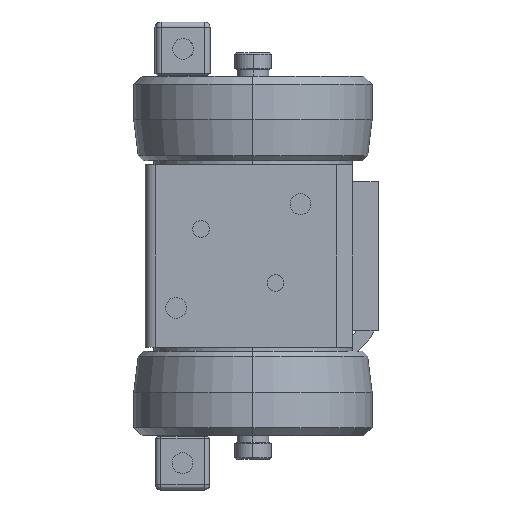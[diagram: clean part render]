
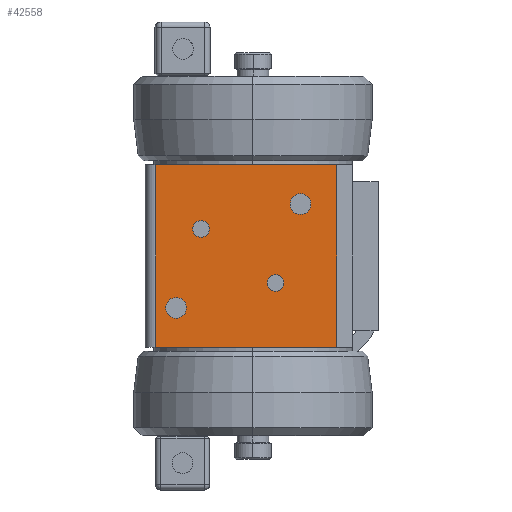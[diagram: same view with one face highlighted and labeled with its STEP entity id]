
A CAD part, left-side view. The second image highlights one B-rep face of the part: STEP entity #42558.
In plain terms, the highlighted planar face has unit normal (-1, 0, 0).
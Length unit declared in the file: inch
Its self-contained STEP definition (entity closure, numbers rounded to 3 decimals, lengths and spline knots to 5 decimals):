
#2936 = AXIS2_PLACEMENT_3D ( 'NONE', #29976, #29975, #29974 ) ;
#2942 = AXIS2_PLACEMENT_3D ( 'NONE', #29755, #29898, #29858 ) ;
#2944 = AXIS2_PLACEMENT_3D ( 'NONE', #29757, #29868, #29856 ) ;
#2945 = AXIS2_PLACEMENT_3D ( 'NONE', #29896, #29861, #29759 ) ;
#4570 = AXIS2_PLACEMENT_3D ( 'NONE', #46967, #46968, #46969 ) ;
#4575 = AXIS2_PLACEMENT_3D ( 'NONE', #32841, #32842, #32843 ) ;
#4583 = AXIS2_PLACEMENT_3D ( 'NONE', #32913, #32914, #32915 ) ;
#4593 = AXIS2_PLACEMENT_3D ( 'NONE', #33026, #33027, #33028 ) ;
#4939 = EDGE_CURVE ( 'NONE', #27279, #27277, #10577, .T. ) ;
#4989 = EDGE_CURVE ( 'NONE', #17498, #17496, #10662, .T. ) ;
#4990 = EDGE_CURVE ( 'NONE', #27701, #27533, #10656, .T. ) ;
#4991 = EDGE_CURVE ( 'NONE', #17502, #17501, #10664, .T. ) ;
#4992 = EDGE_CURVE ( 'NONE', #17500, #27281, #10665, .T. ) ;
#5017 = EDGE_CURVE ( 'NONE', #27364, #27701, #21462, .T. ) ;
#5024 = EDGE_CURVE ( 'NONE', #27533, #27370, #21485, .T. ) ;
#5025 = EDGE_CURVE ( 'NONE', #27364, #27370, #21487, .T. ) ;
#8243 = ORIENTED_EDGE ( 'NONE', *, *, #4991, .F. ) ;
#8244 = ORIENTED_EDGE ( 'NONE', *, *, #33452, .F. ) ;
#8245 = ORIENTED_EDGE ( 'NONE', *, *, #4992, .F. ) ;
#8246 = ORIENTED_EDGE ( 'NONE', *, *, #33469, .F. ) ;
#8247 = ORIENTED_EDGE ( 'NONE', *, *, #4939, .F. ) ;
#8253 = ORIENTED_EDGE ( 'NONE', *, *, #33492, .F. ) ;
#8257 = ORIENTED_EDGE ( 'NONE', *, *, #33529, .F. ) ;
#8258 = ORIENTED_EDGE ( 'NONE', *, *, #4989, .F. ) ;
#8260 = ORIENTED_EDGE ( 'NONE', *, *, #5017, .T. ) ;
#8264 = ORIENTED_EDGE ( 'NONE', *, *, #5024, .T. ) ;
#8265 = ORIENTED_EDGE ( 'NONE', *, *, #5025, .F. ) ;
#8269 = ORIENTED_EDGE ( 'NONE', *, *, #4990, .T. ) ;
#10577 = CIRCLE ( 'NONE', #2936, 0.2 ) ;
#10656 = LINE ( 'NONE', #29852, #10666 ) ;
#10662 = CIRCLE ( 'NONE', #2942, 0.25 ) ;
#10664 = CIRCLE ( 'NONE', #2944, 0.25 ) ;
#10665 = CIRCLE ( 'NONE', #2945, 0.2 ) ;
#10666 = VECTOR ( 'NONE', #29747, 39.37008 ) ;
#15120 = FACE_BOUND ( 'NONE', #39778, .T. ) ;
#15128 = FACE_OUTER_BOUND ( 'NONE', #16344, .T. ) ;
#15132 = FACE_BOUND ( 'NONE', #39800, .T. ) ;
#15134 = FACE_BOUND ( 'NONE', #39798, .T. ) ;
#15135 = FACE_BOUND ( 'NONE', #39802, .T. ) ;
#16344 = EDGE_LOOP ( 'NONE', ( #8269, #8264, #8265, #8260 ) ) ;
#17496 = VERTEX_POINT ( 'NONE', #27115 ) ;
#17498 = VERTEX_POINT ( 'NONE', #27117 ) ;
#17500 = VERTEX_POINT ( 'NONE', #27119 ) ;
#17501 = VERTEX_POINT ( 'NONE', #27120 ) ;
#17502 = VERTEX_POINT ( 'NONE', #27121 ) ;
#20557 = CIRCLE ( 'NONE', #4570, 0.2 ) ;
#20587 = CIRCLE ( 'NONE', #4575, 0.2 ) ;
#21462 = LINE ( 'NONE', #29884, #21466 ) ;
#21466 = VECTOR ( 'NONE', #29586, 39.37008 ) ;
#21485 = LINE ( 'NONE', #29681, #21488 ) ;
#21487 = LINE ( 'NONE', #29602, #21493 ) ;
#21488 = VECTOR ( 'NONE', #29688, 39.37008 ) ;
#21493 = VECTOR ( 'NONE', #29603, 39.37008 ) ;
#27115 = CARTESIAN_POINT ( 'NONE',  ( -2.398, -0.898, 1.25 ) ) ;
#27117 = CARTESIAN_POINT ( 'NONE',  ( -2.398, -1.398, 1.25 ) ) ;
#27119 = CARTESIAN_POINT ( 'NONE',  ( -2.398, 1.0499, 0.65464 ) ) ;
#27120 = CARTESIAN_POINT ( 'NONE',  ( -2.398, 2.102, -1.25 ) ) ;
#27121 = CARTESIAN_POINT ( 'NONE',  ( -2.398, 1.602, -1.25 ) ) ;
#27277 = VERTEX_POINT ( 'NONE', #36346 ) ;
#27279 = VERTEX_POINT ( 'NONE', #36347 ) ;
#27281 = VERTEX_POINT ( 'NONE', #36349 ) ;
#27364 = VERTEX_POINT ( 'NONE', #36432 ) ;
#27370 = VERTEX_POINT ( 'NONE', #36438 ) ;
#27533 = VERTEX_POINT ( 'NONE', #36601 ) ;
#27701 = VERTEX_POINT ( 'NONE', #46485 ) ;
#29586 = DIRECTION ( 'NONE',  ( 0., 0., -1. ) ) ;
#29602 = CARTESIAN_POINT ( 'NONE',  ( -2.398, 2.598, 2.202 ) ) ;
#29603 = DIRECTION ( 'NONE',  ( 0., -1., 0. ) ) ;
#29681 = CARTESIAN_POINT ( 'NONE',  ( -2.398, -2.023, -3.387 ) ) ;
#29688 = DIRECTION ( 'NONE',  ( 0., 0., 1. ) ) ;
#29747 = DIRECTION ( 'NONE',  ( 0., -1., 0. ) ) ;
#29755 = CARTESIAN_POINT ( 'NONE',  ( -2.398, -1.148, 1.25 ) ) ;
#29757 = CARTESIAN_POINT ( 'NONE',  ( -2.398, 1.852, -1.25 ) ) ;
#29759 = DIRECTION ( 'NONE',  ( 0., -1., 0. ) ) ;
#29852 = CARTESIAN_POINT ( 'NONE',  ( -2.398, 2.598, -2.202 ) ) ;
#29856 = DIRECTION ( 'NONE',  ( 0., -1., 0. ) ) ;
#29858 = DIRECTION ( 'NONE',  ( 0., -1., 0. ) ) ;
#29861 = DIRECTION ( 'NONE',  ( -1., 0., 0. ) ) ;
#29868 = DIRECTION ( 'NONE',  ( -1., 0., 0. ) ) ;
#29884 = CARTESIAN_POINT ( 'NONE',  ( -2.398, 2.348, -2.202 ) ) ;
#29896 = CARTESIAN_POINT ( 'NONE',  ( -2.398, 1.2499, 0.65464 ) ) ;
#29898 = DIRECTION ( 'NONE',  ( -1., 0., 0. ) ) ;
#29974 = DIRECTION ( 'NONE',  ( 0., -1., 0. ) ) ;
#29975 = DIRECTION ( 'NONE',  ( -1., 0., 0. ) ) ;
#29976 = CARTESIAN_POINT ( 'NONE',  ( -2.398, -0.5459, -0.65464 ) ) ;
#31978 = DIRECTION ( 'NONE',  ( 1., 0., 0. ) ) ;
#31981 = PLANE ( 'NONE',  #37329 ) ;
#31982 = CARTESIAN_POINT ( 'NONE',  ( -2.398, 2.598, 2.202 ) ) ;
#31984 = DIRECTION ( 'NONE',  ( 0., 1., 0. ) ) ;
#32841 = CARTESIAN_POINT ( 'NONE',  ( -2.398, -0.5459, -0.65464 ) ) ;
#32842 = DIRECTION ( 'NONE',  ( -1., 0., 0. ) ) ;
#32843 = DIRECTION ( 'NONE',  ( 0., -1., 0. ) ) ;
#32913 = CARTESIAN_POINT ( 'NONE',  ( -2.398, -1.148, 1.25 ) ) ;
#32914 = DIRECTION ( 'NONE',  ( -1., 0., 0. ) ) ;
#32915 = DIRECTION ( 'NONE',  ( 0., -1., 0. ) ) ;
#33026 = CARTESIAN_POINT ( 'NONE',  ( -2.398, 1.852, -1.25 ) ) ;
#33027 = DIRECTION ( 'NONE',  ( -1., 0., 0. ) ) ;
#33028 = DIRECTION ( 'NONE',  ( 0., -1., 0. ) ) ;
#33452 = EDGE_CURVE ( 'NONE', #27281, #17500, #20557, .T. ) ;
#33469 = EDGE_CURVE ( 'NONE', #27277, #27279, #20587, .T. ) ;
#33492 = EDGE_CURVE ( 'NONE', #17496, #17498, #37743, .T. ) ;
#33529 = EDGE_CURVE ( 'NONE', #17501, #17502, #37807, .T. ) ;
#36346 = CARTESIAN_POINT ( 'NONE',  ( -2.398, -0.3459, -0.65464 ) ) ;
#36347 = CARTESIAN_POINT ( 'NONE',  ( -2.398, -0.7459, -0.65464 ) ) ;
#36349 = CARTESIAN_POINT ( 'NONE',  ( -2.398, 1.4499, 0.65464 ) ) ;
#36432 = CARTESIAN_POINT ( 'NONE',  ( -2.398, 2.348, 2.202 ) ) ;
#36438 = CARTESIAN_POINT ( 'NONE',  ( -2.398, -2.023, 2.202 ) ) ;
#36601 = CARTESIAN_POINT ( 'NONE',  ( -2.398, -2.023, -2.202 ) ) ;
#37329 = AXIS2_PLACEMENT_3D ( 'NONE', #31982, #31978, #31984 ) ;
#37743 = CIRCLE ( 'NONE', #4583, 0.25 ) ;
#37807 = CIRCLE ( 'NONE', #4593, 0.25 ) ;
#39778 = EDGE_LOOP ( 'NONE', ( #8243, #8257 ) ) ;
#39798 = EDGE_LOOP ( 'NONE', ( #8258, #8253 ) ) ;
#39800 = EDGE_LOOP ( 'NONE', ( #8247, #8246 ) ) ;
#39802 = EDGE_LOOP ( 'NONE', ( #8245, #8244 ) ) ;
#42558 = ADVANCED_FACE ( 'NONE', ( #15132, #15135, #15120, #15134, #15128 ), #31981, .F. ) ;
#46485 = CARTESIAN_POINT ( 'NONE',  ( -2.398, 2.348, -2.202 ) ) ;
#46967 = CARTESIAN_POINT ( 'NONE',  ( -2.398, 1.2499, 0.65464 ) ) ;
#46968 = DIRECTION ( 'NONE',  ( -1., 0., 0. ) ) ;
#46969 = DIRECTION ( 'NONE',  ( 0., -1., 0. ) ) ;
